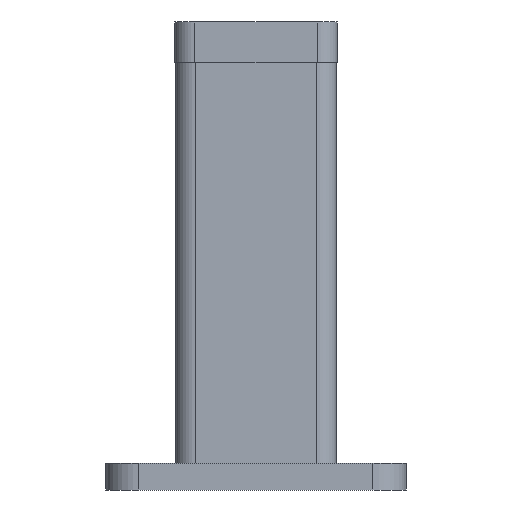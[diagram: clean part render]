
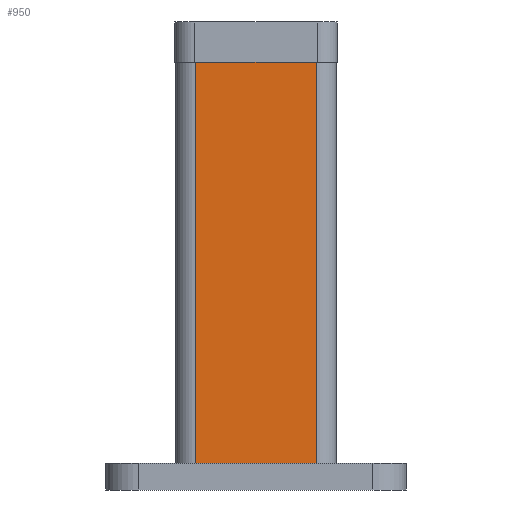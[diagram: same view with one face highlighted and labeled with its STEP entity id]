
A CAD part, left-side view. The second image highlights one B-rep face of the part: STEP entity #950.
In plain terms, the highlighted planar face has unit normal (-1, 0, 0).
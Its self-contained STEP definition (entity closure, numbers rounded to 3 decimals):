
#68=FACE_OUTER_BOUND('',#123,.T.);
#123=EDGE_LOOP('',(#717,#718,#719,#720));
#182=LINE('',#1481,#266);
#187=LINE('',#1500,#271);
#197=LINE('',#1531,#281);
#198=LINE('',#1533,#282);
#266=VECTOR('',#1177,18.);
#271=VECTOR('',#1192,60.);
#281=VECTOR('',#1226,60.);
#282=VECTOR('',#1229,18.);
#403=VERTEX_POINT('',#1466);
#410=VERTEX_POINT('',#1479);
#419=VERTEX_POINT('',#1499);
#428=VERTEX_POINT('',#1529);
#514=EDGE_CURVE('',#403,#410,#182,.T.);
#523=EDGE_CURVE('',#419,#403,#187,.T.);
#539=EDGE_CURVE('',#428,#410,#197,.T.);
#540=EDGE_CURVE('',#419,#428,#198,.T.);
#717=ORIENTED_EDGE('',*,*,#523,.T.);
#718=ORIENTED_EDGE('',*,*,#514,.T.);
#719=ORIENTED_EDGE('',*,*,#539,.F.);
#720=ORIENTED_EDGE('',*,*,#540,.F.);
#913=PLANE('',#1041);
#950=ADVANCED_FACE('',(#68),#913,.T.);
#1041=AXIS2_PLACEMENT_3D('',#1532,#1227,#1228);
#1177=DIRECTION('',(0.,1.,0.));
#1192=DIRECTION('',(0.,0.,1.));
#1226=DIRECTION('',(0.,0.,1.));
#1227=DIRECTION('center_axis',(-1.,0.,0.));
#1228=DIRECTION('ref_axis',(0.,-1.,0.));
#1229=DIRECTION('',(0.,1.,0.));
#1466=CARTESIAN_POINT('',(-12.,-10.,49.));
#1479=CARTESIAN_POINT('',(-12.,8.,49.));
#1481=CARTESIAN_POINT('',(-12.,-10.,49.));
#1499=CARTESIAN_POINT('',(-12.,-10.,-11.));
#1500=CARTESIAN_POINT('',(-12.,-10.,-11.));
#1529=CARTESIAN_POINT('',(-12.,8.,-11.));
#1531=CARTESIAN_POINT('',(-12.,8.,-11.));
#1532=CARTESIAN_POINT('Origin',(-12.,-1.,50.2));
#1533=CARTESIAN_POINT('',(-12.,-10.,-11.));
